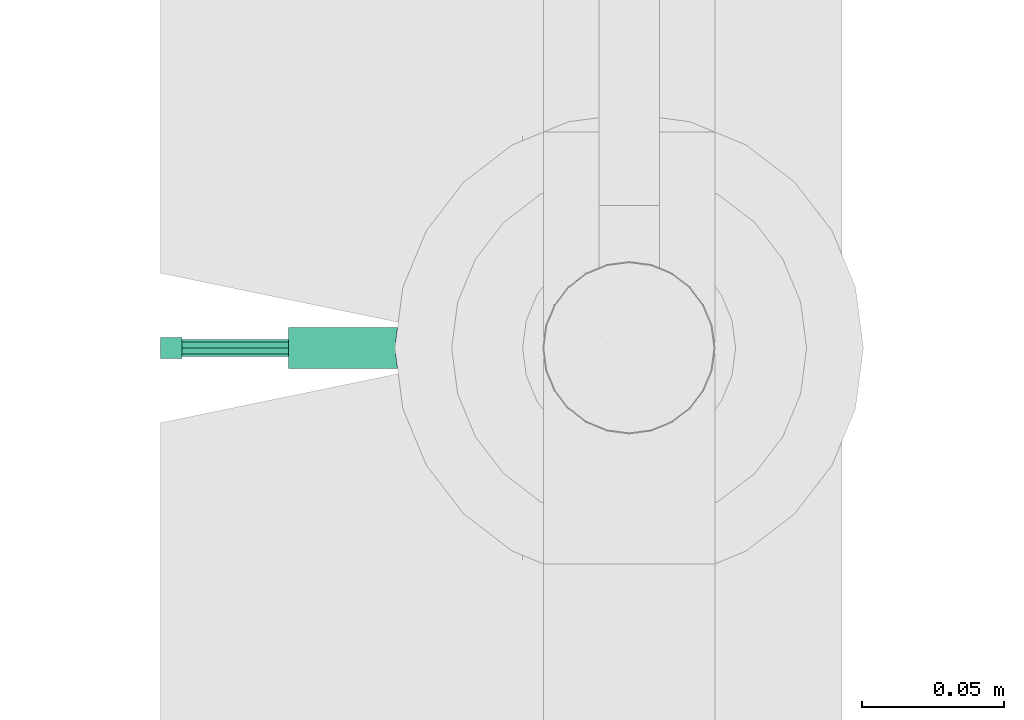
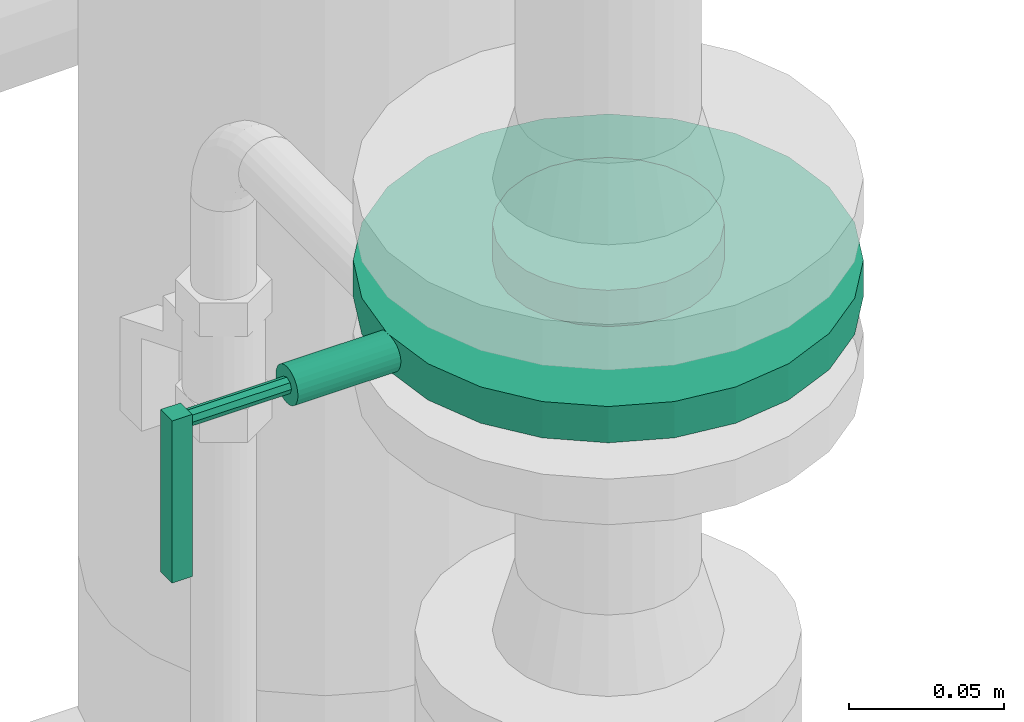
# One storey, part 285 of 374: 1 flow controller.
"""IFC2X3 building model written with IfcOpenShell, lengths in metres."""

from ifc_helpers import new_model, si_unit, direction, origin, place, context, subcontext, project, spatial, open_shell, surface_model, source, transform, mapped, element, save


model = new_model("IFC2X3")

# Units and contexts
model_context = context("Model", 3, precision=1e-05, world=origin(), true_north=direction((-0.4480736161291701, 0.8939966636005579)))
body_context = subcontext(model_context, "Body", "Model", "MODEL_VIEW")
ifc_project = project(units=[si_unit("LENGTHUNIT", "METRE"), si_unit("AREAUNIT", "SQUARE_METRE"), si_unit("VOLUMEUNIT", "CUBIC_METRE"), si_unit("PLANEANGLEUNIT", "RADIAN"), si_unit("THERMODYNAMICTEMPERATUREUNIT", "KELVIN"), si_unit("MASSUNIT", "GRAM", prefix="KILO"), si_unit("TIMEUNIT", "SECOND")], contexts=[model_context])

# Site, building, storey
site_placement = place(None, origin())
site = spatial("IfcSite", under=ifc_project, at=site_placement, Name="Site 1", CompositionType="ELEMENT")
building_placement = place(site_placement, origin())
building = spatial("IfcBuilding", under=site, at=building_placement, Name="Undefined", CompositionType="ELEMENT")
storey_placement = place(building_placement, origin())
storey = spatial("IfcBuildingStorey", under=building, at=storey_placement, Name="Rez de chauss\x8ee", CompositionType="ELEMENT", Elevation=0.0)

# Flow controller
shared_shape = source(origin(), body_context, "Body", "SurfaceModel", [
    surface_model("IfcFaceBasedSurfaceModel", [(0.0, 0.0, 0.0), (0.06404999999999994, 0.0, 0.0), (0.06404999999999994, 0.007500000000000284, 0.0), (0.0, 0.007500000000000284, 0.0), (0.06404999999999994, 0.007500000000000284, -0.007500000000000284), (0.0, 0.007500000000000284, -0.007500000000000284), (0.06404999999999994, 0.0, -0.007500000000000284), (0.0, 0.0, -0.007500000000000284), (0.038799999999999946, 0.04124999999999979, 0.15749999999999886), (0.038799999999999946, 0.03997221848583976, 0.167205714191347), (0.053133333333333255, 0.03997221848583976, 0.167205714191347), (0.053133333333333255, 0.04124999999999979, 0.15749999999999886), (0.038799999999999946, 0.0362259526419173, 0.17625000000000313), (0.053133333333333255, 0.0362259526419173, 0.17625000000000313), (0.038799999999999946, 0.030266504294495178, 0.18401650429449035), (0.053133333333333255, 0.030266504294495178, 0.18401650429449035), (0.038799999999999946, 0.022500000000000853, 0.18997595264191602), (0.053133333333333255, 0.022500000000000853, 0.18997595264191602), (0.038799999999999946, 0.013455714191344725, 0.19372221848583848), (0.053133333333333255, 0.013455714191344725, 0.19372221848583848), (0.038799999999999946, 0.003750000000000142, 0.19500000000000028), (0.053133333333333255, 0.003750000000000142, 0.19500000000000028), (0.038799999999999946, -0.005955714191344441, 0.19372221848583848), (0.053133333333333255, -0.005955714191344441, 0.19372221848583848), (0.038799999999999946, -0.015000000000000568, 0.18997595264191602), (0.053133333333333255, -0.015000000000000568, 0.18997595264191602), (0.038799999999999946, -0.022766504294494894, 0.18401650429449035), (0.053133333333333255, -0.022766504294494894, 0.18401650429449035), (0.038799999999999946, -0.02872595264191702, 0.17625000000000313), (0.053133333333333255, -0.02872595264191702, 0.17625000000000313), (0.038799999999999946, -0.03247221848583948, 0.167205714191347), (0.053133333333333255, -0.03247221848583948, 0.167205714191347), (0.038799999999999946, -0.0337499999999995, 0.15749999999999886), (0.053133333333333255, -0.0337499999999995, 0.15749999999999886), (0.038799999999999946, -0.03247221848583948, 0.14779428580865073), (0.053133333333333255, -0.03247221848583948, 0.14779428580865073), (0.038799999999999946, -0.02872595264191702, 0.1387500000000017), (0.053133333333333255, -0.02872595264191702, 0.1387500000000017), (0.038799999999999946, -0.022766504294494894, 0.13098349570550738), (0.053133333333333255, -0.022766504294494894, 0.13098349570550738), (0.038799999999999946, -0.015000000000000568, 0.1250240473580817), (0.053133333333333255, -0.015000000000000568, 0.1250240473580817), (0.038799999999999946, -0.005955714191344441, 0.12127778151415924), (0.053133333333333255, -0.005955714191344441, 0.12127778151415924), (0.038799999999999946, 0.003750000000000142, 0.11999999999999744), (0.053133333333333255, 0.003750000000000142, 0.11999999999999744), (0.038799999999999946, 0.013455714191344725, 0.12127778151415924), (0.053133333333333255, 0.013455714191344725, 0.12127778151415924), (0.038799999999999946, 0.022500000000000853, 0.1250240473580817), (0.053133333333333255, 0.022500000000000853, 0.1250240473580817), (0.038799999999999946, 0.030266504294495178, 0.13098349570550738), (0.053133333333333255, 0.030266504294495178, 0.13098349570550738), (0.038799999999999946, 0.0362259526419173, 0.1387500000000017), (0.053133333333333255, 0.0362259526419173, 0.1387500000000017), (0.038799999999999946, 0.03997221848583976, 0.14779428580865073), (0.053133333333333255, 0.03997221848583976, 0.14779428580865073), (0.038799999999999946, 0.003750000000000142, 0.15749999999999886), (0.053133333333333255, 0.003750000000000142, 0.15749999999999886), (0.053133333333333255, 0.08624999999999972, 0.15749999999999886), (0.053133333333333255, 0.0834388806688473, 0.17885257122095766), (0.06746666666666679, 0.0834388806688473, 0.17885257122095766), (0.06746666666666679, 0.08624999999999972, 0.15749999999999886), (0.053133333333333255, 0.07519709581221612, 0.19874999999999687), (0.06746666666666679, 0.07519709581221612, 0.19874999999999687), (0.053133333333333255, 0.06208630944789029, 0.21583630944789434), (0.06746666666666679, 0.06208630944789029, 0.21583630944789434), (0.053133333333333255, 0.04499999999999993, 0.22894709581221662), (0.06746666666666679, 0.04499999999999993, 0.22894709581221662), (0.053133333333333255, 0.02510257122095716, 0.23718888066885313), (0.06746666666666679, 0.02510257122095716, 0.23718888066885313), (0.053133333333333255, 0.003750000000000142, 0.240000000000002), (0.06746666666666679, 0.003750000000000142, 0.240000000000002), (0.053133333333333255, -0.017602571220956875, 0.23718888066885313), (0.06746666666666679, -0.017602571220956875, 0.23718888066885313), (0.053133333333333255, -0.037499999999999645, 0.22894709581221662), (0.06746666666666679, -0.037499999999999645, 0.22894709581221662), (0.053133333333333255, -0.05458630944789, 0.21583630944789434), (0.06746666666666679, -0.05458630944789, 0.21583630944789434), (0.053133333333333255, -0.06769709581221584, 0.19874999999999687), (0.06746666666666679, -0.06769709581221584, 0.19874999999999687), (0.053133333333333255, -0.07593888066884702, 0.17885257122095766), (0.06746666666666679, -0.07593888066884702, 0.17885257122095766), (0.053133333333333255, -0.07874999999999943, 0.15749999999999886), (0.06746666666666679, -0.07874999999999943, 0.15749999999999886), (0.053133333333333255, -0.07593888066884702, 0.13614742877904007), (0.06746666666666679, -0.07593888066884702, 0.13614742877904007), (0.053133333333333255, -0.06769709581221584, 0.11625000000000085), (0.06746666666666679, -0.06769709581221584, 0.11625000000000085), (0.053133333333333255, -0.05458630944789, 0.0991636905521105), (0.06746666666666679, -0.05458630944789, 0.0991636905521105), (0.053133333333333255, -0.037499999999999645, 0.08605290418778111), (0.06746666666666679, -0.037499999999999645, 0.08605290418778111), (0.053133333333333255, -0.017602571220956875, 0.0778111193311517), (0.06746666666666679, -0.017602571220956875, 0.0778111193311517), (0.053133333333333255, 0.003750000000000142, 0.07500000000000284), (0.06746666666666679, 0.003750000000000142, 0.07500000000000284), (0.053133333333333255, 0.02510257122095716, 0.0778111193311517), (0.06746666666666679, 0.02510257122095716, 0.0778111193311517), (0.053133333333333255, 0.04499999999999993, 0.08605290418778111), (0.06746666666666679, 0.04499999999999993, 0.08605290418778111), (0.053133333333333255, 0.06208630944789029, 0.0991636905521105), (0.06746666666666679, 0.06208630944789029, 0.0991636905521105), (0.053133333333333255, 0.07519709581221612, 0.11625000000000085), (0.06746666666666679, 0.07519709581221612, 0.11625000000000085), (0.053133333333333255, 0.0834388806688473, 0.13614742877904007), (0.06746666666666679, 0.0834388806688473, 0.13614742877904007), (0.06746666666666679, 0.003750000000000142, 0.15749999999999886), (0.06746666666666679, 0.04124999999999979, 0.15749999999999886), (0.06746666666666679, 0.03997221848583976, 0.167205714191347), (0.08179999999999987, 0.03997221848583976, 0.167205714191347), (0.08179999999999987, 0.04124999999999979, 0.15749999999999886), (0.06746666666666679, 0.0362259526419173, 0.17625000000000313), (0.08179999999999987, 0.0362259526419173, 0.17625000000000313), (0.06746666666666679, 0.030266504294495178, 0.18401650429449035), (0.08179999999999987, 0.030266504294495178, 0.18401650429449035), (0.06746666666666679, 0.022500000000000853, 0.18997595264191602), (0.08179999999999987, 0.022500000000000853, 0.18997595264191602), (0.06746666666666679, 0.013455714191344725, 0.19372221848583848), (0.08179999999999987, 0.013455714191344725, 0.19372221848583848), (0.06746666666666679, 0.003750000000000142, 0.19500000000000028), (0.08179999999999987, 0.003750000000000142, 0.19500000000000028), (0.06746666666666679, -0.005955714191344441, 0.19372221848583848), (0.08179999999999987, -0.005955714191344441, 0.19372221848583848), (0.06746666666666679, -0.015000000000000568, 0.18997595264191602), (0.08179999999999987, -0.015000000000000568, 0.18997595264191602), (0.06746666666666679, -0.022766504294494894, 0.18401650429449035), (0.08179999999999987, -0.022766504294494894, 0.18401650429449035), (0.06746666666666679, -0.02872595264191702, 0.17625000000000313), (0.08179999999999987, -0.02872595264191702, 0.17625000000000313), (0.06746666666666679, -0.03247221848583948, 0.167205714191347), (0.08179999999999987, -0.03247221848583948, 0.167205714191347), (0.06746666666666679, -0.0337499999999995, 0.15749999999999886), (0.08179999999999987, -0.0337499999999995, 0.15749999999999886), (0.06746666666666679, -0.03247221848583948, 0.14779428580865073), (0.08179999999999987, -0.03247221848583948, 0.14779428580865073), (0.06746666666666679, -0.02872595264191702, 0.1387500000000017), (0.08179999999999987, -0.02872595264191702, 0.1387500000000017), (0.06746666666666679, -0.022766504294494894, 0.13098349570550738), (0.08179999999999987, -0.022766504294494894, 0.13098349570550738), (0.06746666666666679, -0.015000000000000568, 0.1250240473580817), (0.08179999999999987, -0.015000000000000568, 0.1250240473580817), (0.06746666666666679, -0.005955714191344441, 0.12127778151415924), (0.08179999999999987, -0.005955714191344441, 0.12127778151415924), (0.06746666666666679, 0.003750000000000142, 0.11999999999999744), (0.08179999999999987, 0.003750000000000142, 0.11999999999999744), (0.06746666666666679, 0.013455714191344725, 0.12127778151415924), (0.08179999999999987, 0.013455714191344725, 0.12127778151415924), (0.06746666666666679, 0.022500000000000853, 0.1250240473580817), (0.08179999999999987, 0.022500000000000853, 0.1250240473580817), (0.06746666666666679, 0.030266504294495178, 0.13098349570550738), (0.08179999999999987, 0.030266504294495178, 0.13098349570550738), (0.06746666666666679, 0.0362259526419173, 0.1387500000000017), (0.08179999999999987, 0.0362259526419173, 0.1387500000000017), (0.06746666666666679, 0.03997221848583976, 0.14779428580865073), (0.08179999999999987, 0.03997221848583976, 0.14779428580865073), (0.08179999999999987, 0.003750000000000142, 0.15749999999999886), (0.06030000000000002, 0.010916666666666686, 0.15749999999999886), (0.062154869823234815, 0.010672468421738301, 0.15749999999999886), (0.062154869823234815, 0.010672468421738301, 0.03750000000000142), (0.06030000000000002, 0.010916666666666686, 0.03750000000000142), (0.06388333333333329, 0.009956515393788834, 0.15749999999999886), (0.06388333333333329, 0.009956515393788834, 0.03750000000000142), (0.06536759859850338, 0.00881759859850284, 0.15749999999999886), (0.06536759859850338, 0.00881759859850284, 0.03750000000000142), (0.06650651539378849, 0.007333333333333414, 0.15749999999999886), (0.06650651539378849, 0.007333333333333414, 0.03750000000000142), (0.0672224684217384, 0.005604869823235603, 0.15749999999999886), (0.0672224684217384, 0.005604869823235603, 0.03750000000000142), (0.06746666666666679, 0.003750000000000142, 0.03750000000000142), (0.0672224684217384, 0.001895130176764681, 0.15749999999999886), (0.0672224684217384, 0.001895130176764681, 0.03750000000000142), (0.06650651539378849, 0.00016666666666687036, 0.15749999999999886), (0.06650651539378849, 0.00016666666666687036, 0.03750000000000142), (0.06536759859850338, -0.0013175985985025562, 0.15749999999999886), (0.06536759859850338, -0.0013175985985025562, 0.03750000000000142), (0.06388333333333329, -0.0024565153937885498, 0.15749999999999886), (0.06388333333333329, -0.0024565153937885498, 0.03750000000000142), (0.062154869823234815, -0.0031724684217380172, 0.15749999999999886), (0.062154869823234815, -0.0031724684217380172, 0.03750000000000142), (0.06030000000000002, -0.0034166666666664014, 0.15749999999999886), (0.06030000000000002, -0.0034166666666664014, 0.03750000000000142), (0.058445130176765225, -0.0031724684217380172, 0.15749999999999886), (0.058445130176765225, -0.0031724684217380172, 0.03750000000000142), (0.05671666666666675, -0.0024565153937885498, 0.15749999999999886), (0.05671666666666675, -0.0024565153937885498, 0.03750000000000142), (0.055232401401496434, -0.0013175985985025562, 0.15749999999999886), (0.055232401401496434, -0.0013175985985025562, 0.03750000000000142), (0.05409348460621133, 0.00016666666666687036, 0.15749999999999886), (0.05409348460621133, 0.00016666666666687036, 0.03750000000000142), (0.05337753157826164, 0.001895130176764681, 0.15749999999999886), (0.05337753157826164, 0.001895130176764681, 0.03750000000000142), (0.053133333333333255, 0.003750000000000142, 0.03750000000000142), (0.05337753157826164, 0.005604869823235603, 0.15749999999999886), (0.05337753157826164, 0.005604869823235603, 0.03750000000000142), (0.05409348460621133, 0.007333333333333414, 0.15749999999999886), (0.05409348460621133, 0.007333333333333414, 0.03750000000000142), (0.055232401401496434, 0.00881759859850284, 0.15749999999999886), (0.055232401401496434, 0.00881759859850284, 0.03750000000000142), (0.05671666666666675, 0.009956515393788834, 0.15749999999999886), (0.05671666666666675, 0.009956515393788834, 0.03750000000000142), (0.058445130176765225, 0.010672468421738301, 0.15749999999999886), (0.058445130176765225, 0.010672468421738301, 0.03750000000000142), (0.06030000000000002, 0.003750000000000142, 0.15749999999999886), (0.06030000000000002, 0.003750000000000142, 0.03750000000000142), (0.06030000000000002, 0.006764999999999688, 0.03750000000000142), (0.06243192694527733, 0.005881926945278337, 0.03750000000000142), (0.06243192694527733, 0.005881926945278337, 0.0), (0.06030000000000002, 0.006764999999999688, 0.0), (0.06331500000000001, 0.003750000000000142, 0.03750000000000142), (0.06331500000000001, 0.003750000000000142, 0.0), (0.06243192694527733, 0.0016180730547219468, 0.03750000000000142), (0.06243192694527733, 0.0016180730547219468, 0.0), (0.06030000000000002, 0.0007350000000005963, 0.03750000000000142), (0.06030000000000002, 0.0007350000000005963, 0.0), (0.05816807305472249, 0.0016180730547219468, 0.03750000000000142), (0.05816807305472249, 0.0016180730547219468, 0.0), (0.05728499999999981, 0.003750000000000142, 0.03750000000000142), (0.05728499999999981, 0.003750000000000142, 0.0), (0.05816807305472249, 0.005881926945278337, 0.03750000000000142), (0.05816807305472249, 0.005881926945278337, 0.0), (0.06030000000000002, 0.003750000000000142, 0.0)], [open_shell([[[0, 1, 2, 3]], [[3, 2, 4, 5]], [[5, 4, 6, 7]], [[7, 6, 1, 0]], [[0, 3, 5, 7]], [[6, 4, 2, 1]], [[8, 9, 10, 11]], [[9, 12, 13, 10]], [[12, 14, 15, 13]], [[14, 16, 17, 15]], [[16, 18, 19, 17]], [[18, 20, 21, 19]], [[20, 22, 23, 21]], [[22, 24, 25, 23]], [[24, 26, 27, 25]], [[26, 28, 29, 27]], [[28, 30, 31, 29]], [[30, 32, 33, 31]], [[32, 34, 35, 33]], [[34, 36, 37, 35]], [[36, 38, 39, 37]], [[38, 40, 41, 39]], [[40, 42, 43, 41]], [[42, 44, 45, 43]], [[44, 46, 47, 45]], [[46, 48, 49, 47]], [[48, 50, 51, 49]], [[50, 52, 53, 51]], [[52, 54, 55, 53]], [[54, 8, 11, 55]], [[56, 9, 8]], [[56, 12, 9]], [[56, 14, 12]], [[56, 16, 14]], [[56, 18, 16]], [[56, 20, 18]], [[56, 22, 20]], [[56, 24, 22]], [[56, 26, 24]], [[56, 28, 26]], [[56, 30, 28]], [[56, 32, 30]], [[56, 34, 32]], [[56, 36, 34]], [[56, 38, 36]], [[56, 40, 38]], [[56, 42, 40]], [[56, 44, 42]], [[56, 46, 44]], [[56, 48, 46]], [[56, 50, 48]], [[56, 52, 50]], [[56, 54, 52]], [[56, 8, 54]], [[57, 55, 11]], [[57, 53, 55]], [[57, 51, 53]], [[57, 49, 51]], [[57, 47, 49]], [[57, 45, 47]], [[57, 43, 45]], [[57, 41, 43]], [[57, 39, 41]], [[57, 37, 39]], [[57, 35, 37]], [[57, 33, 35]], [[57, 31, 33]], [[57, 29, 31]], [[57, 27, 29]], [[57, 25, 27]], [[57, 23, 25]], [[57, 21, 23]], [[57, 19, 21]], [[57, 17, 19]], [[57, 15, 17]], [[57, 13, 15]], [[57, 10, 13]], [[57, 11, 10]], [[58, 59, 60, 61]], [[59, 62, 63, 60]], [[62, 64, 65, 63]], [[64, 66, 67, 65]], [[66, 68, 69, 67]], [[68, 70, 71, 69]], [[70, 72, 73, 71]], [[72, 74, 75, 73]], [[74, 76, 77, 75]], [[76, 78, 79, 77]], [[78, 80, 81, 79]], [[80, 82, 83, 81]], [[82, 84, 85, 83]], [[84, 86, 87, 85]], [[86, 88, 89, 87]], [[88, 90, 91, 89]], [[90, 92, 93, 91]], [[92, 94, 95, 93]], [[94, 96, 97, 95]], [[96, 98, 99, 97]], [[98, 100, 101, 99]], [[100, 102, 103, 101]], [[102, 104, 105, 103]], [[104, 58, 61, 105]], [[57, 59, 58]], [[57, 62, 59]], [[57, 64, 62]], [[57, 66, 64]], [[57, 68, 66]], [[57, 70, 68]], [[57, 72, 70]], [[57, 74, 72]], [[57, 76, 74]], [[57, 78, 76]], [[57, 80, 78]], [[57, 82, 80]], [[57, 84, 82]], [[57, 86, 84]], [[57, 88, 86]], [[57, 90, 88]], [[57, 92, 90]], [[57, 94, 92]], [[57, 96, 94]], [[57, 98, 96]], [[57, 100, 98]], [[57, 102, 100]], [[57, 104, 102]], [[57, 58, 104]], [[106, 105, 61]], [[106, 103, 105]], [[106, 101, 103]], [[106, 99, 101]], [[106, 97, 99]], [[106, 95, 97]], [[106, 93, 95]], [[106, 91, 93]], [[106, 89, 91]], [[106, 87, 89]], [[106, 85, 87]], [[106, 83, 85]], [[106, 81, 83]], [[106, 79, 81]], [[106, 77, 79]], [[106, 75, 77]], [[106, 73, 75]], [[106, 71, 73]], [[106, 69, 71]], [[106, 67, 69]], [[106, 65, 67]], [[106, 63, 65]], [[106, 60, 63]], [[106, 61, 60]], [[107, 108, 109, 110]], [[108, 111, 112, 109]], [[111, 113, 114, 112]], [[113, 115, 116, 114]], [[115, 117, 118, 116]], [[117, 119, 120, 118]], [[119, 121, 122, 120]], [[121, 123, 124, 122]], [[123, 125, 126, 124]], [[125, 127, 128, 126]], [[127, 129, 130, 128]], [[129, 131, 132, 130]], [[131, 133, 134, 132]], [[133, 135, 136, 134]], [[135, 137, 138, 136]], [[137, 139, 140, 138]], [[139, 141, 142, 140]], [[141, 143, 144, 142]], [[143, 145, 146, 144]], [[145, 147, 148, 146]], [[147, 149, 150, 148]], [[149, 151, 152, 150]], [[151, 153, 154, 152]], [[153, 107, 110, 154]], [[106, 108, 107]], [[106, 111, 108]], [[106, 113, 111]], [[106, 115, 113]], [[106, 117, 115]], [[106, 119, 117]], [[106, 121, 119]], [[106, 123, 121]], [[106, 125, 123]], [[106, 127, 125]], [[106, 129, 127]], [[106, 131, 129]], [[106, 133, 131]], [[106, 135, 133]], [[106, 137, 135]], [[106, 139, 137]], [[106, 141, 139]], [[106, 143, 141]], [[106, 145, 143]], [[106, 147, 145]], [[106, 149, 147]], [[106, 151, 149]], [[106, 153, 151]], [[106, 107, 153]], [[155, 154, 110]], [[155, 152, 154]], [[155, 150, 152]], [[155, 148, 150]], [[155, 146, 148]], [[155, 144, 146]], [[155, 142, 144]], [[155, 140, 142]], [[155, 138, 140]], [[155, 136, 138]], [[155, 134, 136]], [[155, 132, 134]], [[155, 130, 132]], [[155, 128, 130]], [[155, 126, 128]], [[155, 124, 126]], [[155, 122, 124]], [[155, 120, 122]], [[155, 118, 120]], [[155, 116, 118]], [[155, 114, 116]], [[155, 112, 114]], [[155, 109, 112]], [[155, 110, 109]], [[156, 157, 158, 159]], [[157, 160, 161, 158]], [[160, 162, 163, 161]], [[162, 164, 165, 163]], [[164, 166, 167, 165]], [[166, 106, 168, 167]], [[106, 169, 170, 168]], [[169, 171, 172, 170]], [[171, 173, 174, 172]], [[173, 175, 176, 174]], [[175, 177, 178, 176]], [[177, 179, 180, 178]], [[179, 181, 182, 180]], [[181, 183, 184, 182]], [[183, 185, 186, 184]], [[185, 187, 188, 186]], [[187, 189, 190, 188]], [[189, 57, 191, 190]], [[57, 192, 193, 191]], [[192, 194, 195, 193]], [[194, 196, 197, 195]], [[196, 198, 199, 197]], [[198, 200, 201, 199]], [[200, 156, 159, 201]], [[202, 157, 156]], [[202, 160, 157]], [[202, 162, 160]], [[202, 164, 162]], [[202, 166, 164]], [[202, 106, 166]], [[202, 169, 106]], [[202, 171, 169]], [[202, 173, 171]], [[202, 175, 173]], [[202, 177, 175]], [[202, 179, 177]], [[202, 181, 179]], [[202, 183, 181]], [[202, 185, 183]], [[202, 187, 185]], [[202, 189, 187]], [[202, 57, 189]], [[202, 192, 57]], [[202, 194, 192]], [[202, 196, 194]], [[202, 198, 196]], [[202, 200, 198]], [[202, 156, 200]], [[203, 201, 159]], [[203, 199, 201]], [[203, 197, 199]], [[203, 195, 197]], [[203, 193, 195]], [[203, 191, 193]], [[203, 190, 191]], [[203, 188, 190]], [[203, 186, 188]], [[203, 184, 186]], [[203, 182, 184]], [[203, 180, 182]], [[203, 178, 180]], [[203, 176, 178]], [[203, 174, 176]], [[203, 172, 174]], [[203, 170, 172]], [[203, 168, 170]], [[203, 167, 168]], [[203, 165, 167]], [[203, 163, 165]], [[203, 161, 163]], [[203, 158, 161]], [[203, 159, 158]], [[204, 205, 206, 207]], [[205, 208, 209, 206]], [[208, 210, 211, 209]], [[210, 212, 213, 211]], [[212, 214, 215, 213]], [[214, 216, 217, 215]], [[216, 218, 219, 217]], [[218, 204, 207, 219]], [[220, 219, 207]], [[220, 217, 219]], [[220, 215, 217]], [[220, 213, 215]], [[220, 211, 213]], [[220, 209, 211]], [[220, 206, 209]], [[220, 207, 206]]])]),
])
flow_controller_placement = place(storey_placement, origin())
element("IfcFlowController", 1, at=flow_controller_placement, inside=storey, Name="Vanne papillon", ObjectType="Vanne papillon", context=body_context, shape_type="MappedRepresentation", body=[
    mapped(shared_shape, transform((54.841829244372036, 12.0014264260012, 1.6576691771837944), x_axis=(0.0, 0.0, 1.0), y_axis=(0.0, -1.0, 0.0), z_axis=(1.0, 0.0, 0.0))),
])

save(model, "model.ifc")
